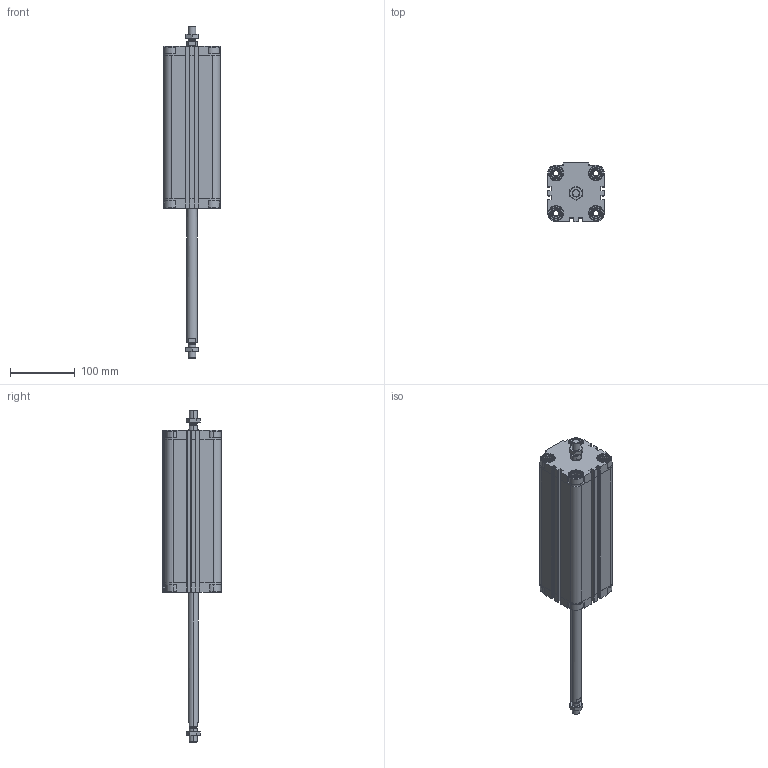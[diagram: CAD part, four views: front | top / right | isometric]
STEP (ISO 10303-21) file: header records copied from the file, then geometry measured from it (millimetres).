
FILE_DESCRIPTION (( 'STEP AP203' ), '1' );
FILE_NAME ('CDVU63-200M-P.STEP', '2020-07-21T15:23:37', ( '' ), ( '' ), 'SwSTEP 2.0', 'SolidWorks 2019', '' );
FILE_SCHEMA (( 'CONFIG_CONTROL_DESIGN' ));
Length unit declared in the file: millimetre
Products named in the file (1): CDVU63-200M-P
Bounding box: 87 x 91 x 513 mm (x, y, z)
Volume: 1136172.3 mm3; surface area: 253901.4 mm2
Topology: 4 solids, 4 shells, 658 faces, 1744 edges, 1138 vertices
Faces by surface type: plane 386, cylinder 192, cone 80
Entity records: 21255 total; most frequent: CARTESIAN_POINT 4809, ORIENTED_EDGE 3480, DIRECTION 3322, EDGE_CURVE 1740, AXIS2_PLACEMENT_3D 1139, VERTEX_POINT 1138, VECTOR 1044, LINE 1044
